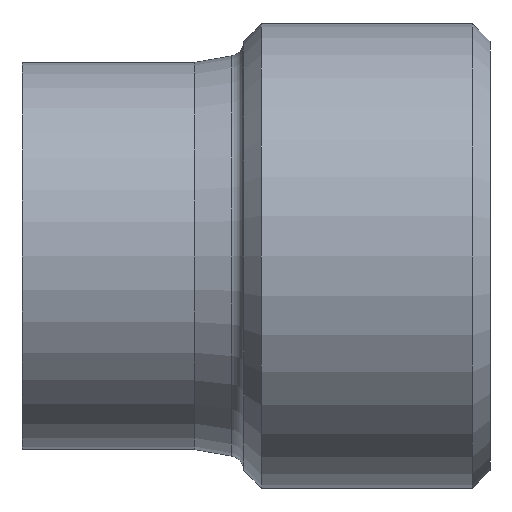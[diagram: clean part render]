
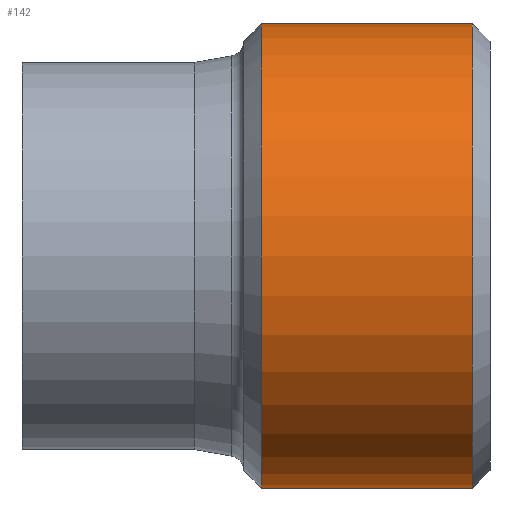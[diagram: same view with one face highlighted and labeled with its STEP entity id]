
A CAD part, front view. The second image highlights one B-rep face of the part: STEP entity #142.
In plain terms, the highlighted cylindrical face has radius 66 mm (diameter 132 mm), a full revolution.
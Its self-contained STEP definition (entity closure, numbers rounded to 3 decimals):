
#27=FACE_BOUND($,#58,.T.);
#39=FACE_OUTER_BOUND($,#57,.T.);
#57=EDGE_LOOP($,(#112));
#58=EDGE_LOOP($,(#113));
#71=CIRCLE($,#164,66.);
#72=CIRCLE($,#166,66.);
#82=VERTEX_POINT($,#241);
#83=VERTEX_POINT($,#244);
#93=EDGE_CURVE($,#82,#82,#71,.T.);
#94=EDGE_CURVE($,#83,#83,#72,.T.);
#112=ORIENTED_EDGE($,*,*,#94,.F.);
#113=ORIENTED_EDGE($,*,*,#93,.T.);
#121=CYLINDRICAL_SURFACE($,#165,66.);
#142=ADVANCED_FACE($,(#39,#27),#121,.T.);
#164=AXIS2_PLACEMENT_3D($,#242,#204,#205);
#165=AXIS2_PLACEMENT_3D($,#243,#206,#207);
#166=AXIS2_PLACEMENT_3D($,#245,#208,#209);
#204=DIRECTION('center_axis',(1.,0.,0.));
#205=DIRECTION('ref_axis',(0.,1.,0.));
#206=DIRECTION('center_axis',(1.,0.,0.));
#207=DIRECTION('ref_axis',(0.,1.,0.));
#208=DIRECTION('center_axis',(1.,0.,0.));
#209=DIRECTION('ref_axis',(0.,1.,0.));
#241=CARTESIAN_POINT('',(68.,66.,0.));
#242=CARTESIAN_POINT('Origin',(68.,0.,0.));
#243=CARTESIAN_POINT('Origin',(98.,0.,0.));
#244=CARTESIAN_POINT('',(128.,66.,0.));
#245=CARTESIAN_POINT('Origin',(128.,0.,0.));
